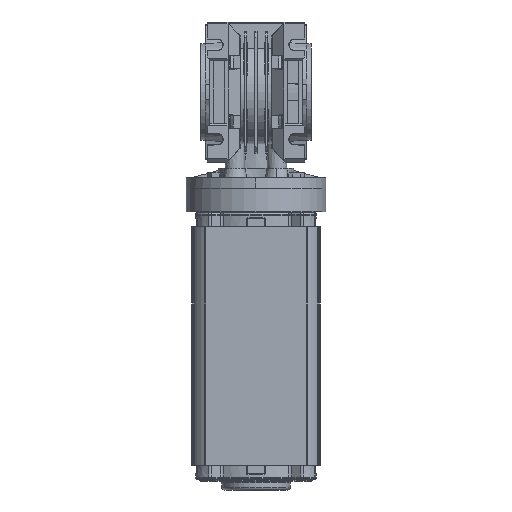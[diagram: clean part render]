
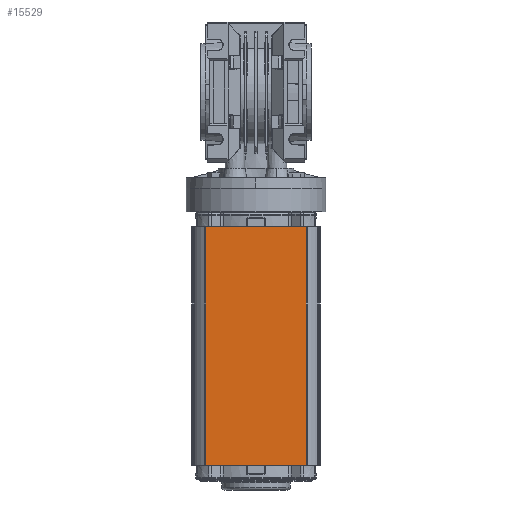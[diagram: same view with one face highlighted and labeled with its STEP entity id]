
A CAD part, front view. The second image highlights one B-rep face of the part: STEP entity #15529.
In plain terms, the highlighted planar face has unit normal (0, -1, 0).
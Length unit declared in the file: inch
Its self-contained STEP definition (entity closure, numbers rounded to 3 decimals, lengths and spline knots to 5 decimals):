
#2562 = VECTOR ( 'NONE', #87682, 39.37008 ) ;
#3832 = EDGE_CURVE ( 'NONE', #6983, #71672, #58643, .T. ) ;
#4879 = VECTOR ( 'NONE', #25031, 39.37008 ) ;
#6983 = VERTEX_POINT ( 'NONE', #86787 ) ;
#7350 = FACE_OUTER_BOUND ( 'NONE', #76696, .T. ) ;
#8812 = DIRECTION ( 'NONE',  ( 0., -1., 0. ) ) ;
#15529 = ADVANCED_FACE ( 'NONE', ( #7350 ), #59680, .T. ) ;
#15649 = VERTEX_POINT ( 'NONE', #61608 ) ;
#15874 = VECTOR ( 'NONE', #52124, 39.37008 ) ;
#19002 = VECTOR ( 'NONE', #62199, 39.37008 ) ;
#19771 = AXIS2_PLACEMENT_3D ( 'NONE', #52684, #8812, #60011 ) ;
#21268 = LINE ( 'NONE', #54829, #19002 ) ;
#25031 = DIRECTION ( 'NONE',  ( 1., 0., 0. ) ) ;
#25350 = CARTESIAN_POINT ( 'NONE',  ( -1.1475, -1.442, -0.872 ) ) ;
#26597 = LINE ( 'NONE', #25350, #4879 ) ;
#37923 = ORIENTED_EDGE ( 'NONE', *, *, #68047, .T. ) ;
#43996 = CARTESIAN_POINT ( 'NONE',  ( -1.1275, -1.442, -6.242 ) ) ;
#44754 = CARTESIAN_POINT ( 'NONE',  ( 1.1275, -1.442, -6.242 ) ) ;
#50894 = CARTESIAN_POINT ( 'NONE',  ( 1.1275, -1.442, -6.377 ) ) ;
#52124 = DIRECTION ( 'NONE',  ( -1., 0., 0. ) ) ;
#52684 = CARTESIAN_POINT ( 'NONE',  ( -1.1475, -1.442, -6.377 ) ) ;
#54829 = CARTESIAN_POINT ( 'NONE',  ( -1.1275, -1.442, -6.377 ) ) ;
#58643 = LINE ( 'NONE', #50894, #2562 ) ;
#59680 = PLANE ( 'NONE',  #19771 ) ;
#59901 = EDGE_CURVE ( 'NONE', #15649, #71672, #26597, .T. ) ;
#60011 = DIRECTION ( 'NONE',  ( 1., 0., 0. ) ) ;
#61323 = ORIENTED_EDGE ( 'NONE', *, *, #3832, .T. ) ;
#61608 = CARTESIAN_POINT ( 'NONE',  ( -1.1275, -1.442, -0.872 ) ) ;
#62199 = DIRECTION ( 'NONE',  ( 0., 0., -1. ) ) ;
#67100 = ORIENTED_EDGE ( 'NONE', *, *, #90093, .F. ) ;
#68047 = EDGE_CURVE ( 'NONE', #15649, #83066, #21268, .T. ) ;
#69019 = ORIENTED_EDGE ( 'NONE', *, *, #59901, .F. ) ;
#71672 = VERTEX_POINT ( 'NONE', #79879 ) ;
#74246 = LINE ( 'NONE', #44754, #15874 ) ;
#76696 = EDGE_LOOP ( 'NONE', ( #37923, #67100, #61323, #69019 ) ) ;
#79879 = CARTESIAN_POINT ( 'NONE',  ( 1.1275, -1.442, -0.872 ) ) ;
#83066 = VERTEX_POINT ( 'NONE', #43996 ) ;
#86787 = CARTESIAN_POINT ( 'NONE',  ( 1.1275, -1.442, -6.242 ) ) ;
#87682 = DIRECTION ( 'NONE',  ( 0., 0., 1. ) ) ;
#90093 = EDGE_CURVE ( 'NONE', #6983, #83066, #74246, .T. ) ;
